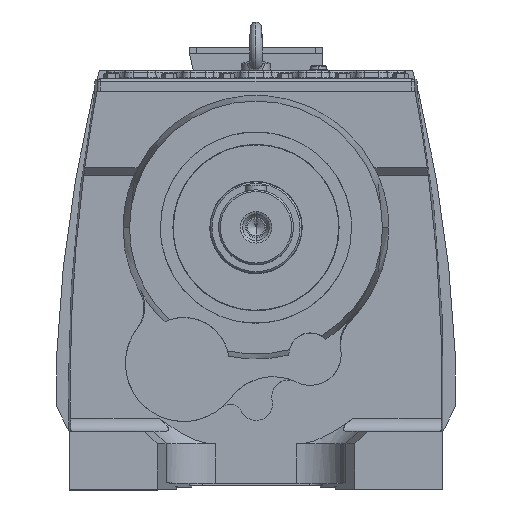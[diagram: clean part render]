
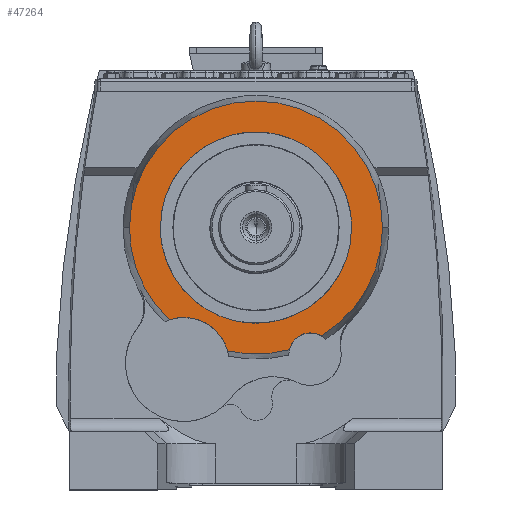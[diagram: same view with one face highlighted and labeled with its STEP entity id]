
A CAD part, top view. The second image highlights one B-rep face of the part: STEP entity #47264.
In plain terms, the highlighted planar face has unit normal (0, 0, 1).
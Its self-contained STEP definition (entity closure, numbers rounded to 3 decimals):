
#3621 = ORIENTED_EDGE ( 'NONE', *, *, #31946, .T. ) ;
#3630 = ORIENTED_EDGE ( 'NONE', *, *, #112364, .T. ) ;
#3678 = ORIENTED_EDGE ( 'NONE', *, *, #31423, .T. ) ;
#3692 = ORIENTED_EDGE ( 'NONE', *, *, #112251, .F. ) ;
#17794 = CIRCLE ( 'NONE', #100013, 115. ) ;
#28220 = DIRECTION ( 'NONE',  ( 0., 0., -1. ) ) ;
#28223 = CARTESIAN_POINT ( 'NONE',  ( 0., 0., 243. ) ) ;
#28252 = DIRECTION ( 'NONE',  ( -1., 0., 0. ) ) ;
#28622 = DIRECTION ( 'NONE',  ( 0., 0., -1. ) ) ;
#28625 = CARTESIAN_POINT ( 'NONE',  ( -87.112, -163.207, 243. ) ) ;
#28629 = DIRECTION ( 'NONE',  ( -1., 0., 0. ) ) ;
#31412 = EDGE_CURVE ( 'NONE', #67206, #67233, #17794, .T. ) ;
#31423 = EDGE_CURVE ( 'NONE', #66414, #67158, #41791, .T. ) ;
#31804 = EDGE_CURVE ( 'NONE', #67146, #67125, #39946, .T. ) ;
#31946 = EDGE_CURVE ( 'NONE', #67123, #66414, #40127, .T. ) ;
#33288 = AXIS2_PLACEMENT_3D ( 'NONE', #83192, #83199, #83212 ) ;
#38900 = CARTESIAN_POINT ( 'NONE',  ( 0., 0., 243. ) ) ;
#38902 = DIRECTION ( 'NONE',  ( 0., 0., 1. ) ) ;
#38909 = DIRECTION ( 'NONE',  ( -1., 0., 0. ) ) ;
#38937 = DIRECTION ( 'NONE',  ( 0., 0., -1. ) ) ;
#38957 = DIRECTION ( 'NONE',  ( -1., 0., 0. ) ) ;
#38985 = CARTESIAN_POINT ( 'NONE',  ( 0., 0., 243. ) ) ;
#39946 = CIRCLE ( 'NONE', #100620, 152.301 ) ;
#40127 = CIRCLE ( 'NONE', #100826, 55. ) ;
#41791 = CIRCLE ( 'NONE', #100021, 152.301 ) ;
#47264 = ADVANCED_FACE ( 'NONE', ( #73799, #73807 ), #83220, .T. ) ;
#60049 = ORIENTED_EDGE ( 'NONE', *, *, #31804, .F. ) ;
#60165 = ORIENTED_EDGE ( 'NONE', *, *, #31412, .T. ) ;
#60355 = ORIENTED_EDGE ( 'NONE', *, *, #112323, .T. ) ;
#60390 = ORIENTED_EDGE ( 'NONE', *, *, #112014, .F. ) ;
#66414 = VERTEX_POINT ( 'NONE', #75594 ) ;
#67020 = VERTEX_POINT ( 'NONE', #72375 ) ;
#67123 = VERTEX_POINT ( 'NONE', #72408 ) ;
#67125 = VERTEX_POINT ( 'NONE', #72578 ) ;
#67146 = VERTEX_POINT ( 'NONE', #72705 ) ;
#67158 = VERTEX_POINT ( 'NONE', #72670 ) ;
#67206 = VERTEX_POINT ( 'NONE', #72838 ) ;
#67233 = VERTEX_POINT ( 'NONE', #72859 ) ;
#72375 = CARTESIAN_POINT ( 'NONE',  ( -152.301, 0., 243. ) ) ;
#72408 = CARTESIAN_POINT ( 'NONE',  ( -104.316, -110.967, 243. ) ) ;
#72578 = CARTESIAN_POINT ( 'NONE',  ( 78.775, -130.346, 243. ) ) ;
#72670 = CARTESIAN_POINT ( 'NONE',  ( 40.186, -146.904, 243. ) ) ;
#72705 = CARTESIAN_POINT ( 'NONE',  ( 152.301, 0., 243. ) ) ;
#72838 = CARTESIAN_POINT ( 'NONE',  ( 115., 0., 243. ) ) ;
#72859 = CARTESIAN_POINT ( 'NONE',  ( -115., 0., 243. ) ) ;
#73799 = FACE_OUTER_BOUND ( 'NONE', #80510, .T. ) ;
#73807 = FACE_BOUND ( 'NONE', #80583, .T. ) ;
#75594 = CARTESIAN_POINT ( 'NONE',  ( -34.135, -148.426, 243. ) ) ;
#80510 = EDGE_LOOP ( 'NONE', ( #3692, #3621, #3678, #3630, #60049, #60390 ) ) ;
#80583 = EDGE_LOOP ( 'NONE', ( #60355, #60165 ) ) ;
#83192 = CARTESIAN_POINT ( 'NONE',  ( 0., 0., 243. ) ) ;
#83199 = DIRECTION ( 'NONE',  ( 0., 0., 1. ) ) ;
#83212 = DIRECTION ( 'NONE',  ( 1., 0., 0. ) ) ;
#83220 = PLANE ( 'NONE',  #33288 ) ;
#86576 = DIRECTION ( 'NONE',  ( 0., 0., -1. ) ) ;
#86595 = DIRECTION ( 'NONE',  ( -1., 0., 0. ) ) ;
#86610 = CARTESIAN_POINT ( 'NONE',  ( 65.528, -152.718, 243. ) ) ;
#88130 = DIRECTION ( 'NONE',  ( 0., 0., -1. ) ) ;
#88181 = DIRECTION ( 'NONE',  ( -1., 0., 0. ) ) ;
#88213 = CARTESIAN_POINT ( 'NONE',  ( 0., 0., 243. ) ) ;
#88678 = DIRECTION ( 'NONE',  ( 0., 0., -1. ) ) ;
#88716 = CARTESIAN_POINT ( 'NONE',  ( 0., 0., 243. ) ) ;
#88723 = DIRECTION ( 'NONE',  ( -1., 0., 0. ) ) ;
#89321 = AXIS2_PLACEMENT_3D ( 'NONE', #104223, #104226, #104293 ) ;
#89327 = CIRCLE ( 'NONE', #89430, 115. ) ;
#89371 = CIRCLE ( 'NONE', #89415, 26. ) ;
#89415 = AXIS2_PLACEMENT_3D ( 'NONE', #86610, #86576, #86595 ) ;
#89430 = AXIS2_PLACEMENT_3D ( 'NONE', #88716, #88678, #88723 ) ;
#89532 = AXIS2_PLACEMENT_3D ( 'NONE', #88213, #88130, #88181 ) ;
#92733 = CIRCLE ( 'NONE', #89532, 152.301 ) ;
#93316 = CIRCLE ( 'NONE', #89321, 152.301 ) ;
#100013 = AXIS2_PLACEMENT_3D ( 'NONE', #38985, #38937, #38909 ) ;
#100021 = AXIS2_PLACEMENT_3D ( 'NONE', #38900, #38902, #38957 ) ;
#100620 = AXIS2_PLACEMENT_3D ( 'NONE', #28223, #28220, #28252 ) ;
#100826 = AXIS2_PLACEMENT_3D ( 'NONE', #28625, #28622, #28629 ) ;
#104223 = CARTESIAN_POINT ( 'NONE',  ( 0., 0., 243. ) ) ;
#104226 = DIRECTION ( 'NONE',  ( 0., 0., -1. ) ) ;
#104293 = DIRECTION ( 'NONE',  ( -1., 0., 0. ) ) ;
#112014 = EDGE_CURVE ( 'NONE', #67020, #67146, #93316, .T. ) ;
#112251 = EDGE_CURVE ( 'NONE', #67123, #67020, #92733, .T. ) ;
#112323 = EDGE_CURVE ( 'NONE', #67233, #67206, #89327, .T. ) ;
#112364 = EDGE_CURVE ( 'NONE', #67158, #67125, #89371, .T. ) ;
